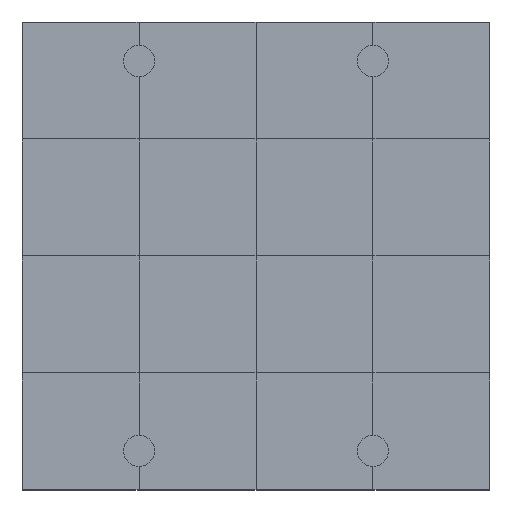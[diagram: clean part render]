
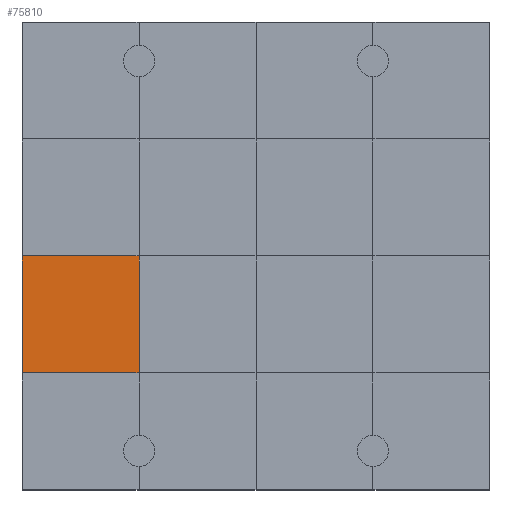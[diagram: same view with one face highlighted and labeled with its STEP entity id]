
A CAD part, top view. The second image highlights one B-rep face of the part: STEP entity #75810.
In plain terms, the highlighted planar face has unit normal (0, 0, 1).
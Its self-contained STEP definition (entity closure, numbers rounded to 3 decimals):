
#75360 = VERTEX_POINT('',#75361);
#75361 = CARTESIAN_POINT('',(0.,3.,1.2));
#75375 = PLANE('',#75376);
#75376 = AXIS2_PLACEMENT_3D('',#75377,#75378,#75379);
#75377 = CARTESIAN_POINT('',(0.,3.,0.));
#75378 = DIRECTION('',(1.,0.,-0.));
#75379 = DIRECTION('',(0.,0.,1.));
#75401 = PLANE('',#75402);
#75402 = AXIS2_PLACEMENT_3D('',#75403,#75404,#75405);
#75403 = CARTESIAN_POINT('',(0.,0.,1.2));
#75404 = DIRECTION('',(0.,0.,1.));
#75405 = DIRECTION('',(1.,0.,-0.));
#75552 = VERTEX_POINT('',#75553);
#75553 = CARTESIAN_POINT('',(3.,3.,1.2));
#75574 = EDGE_CURVE('',#75360,#75552,#75575,.T.);
#75575 = SURFACE_CURVE('',#75576,(#75580,#75587),.PCURVE_S1.);
#75576 = LINE('',#75577,#75578);
#75577 = CARTESIAN_POINT('',(0.,3.,1.2));
#75578 = VECTOR('',#75579,1.);
#75579 = DIRECTION('',(1.,0.,-0.));
#75580 = PCURVE('',#75401,#75581);
#75581 = DEFINITIONAL_REPRESENTATION('',(#75582),#75586);
#75582 = LINE('',#75583,#75584);
#75583 = CARTESIAN_POINT('',(0.,3.));
#75584 = VECTOR('',#75585,1.);
#75585 = DIRECTION('',(1.,0.));
#75586 = ( GEOMETRIC_REPRESENTATION_CONTEXT(2) 
PARAMETRIC_REPRESENTATION_CONTEXT() REPRESENTATION_CONTEXT('2D SPACE',''
  ) );
#75587 = PCURVE('',#75588,#75593);
#75588 = PLANE('',#75589);
#75589 = AXIS2_PLACEMENT_3D('',#75590,#75591,#75592);
#75590 = CARTESIAN_POINT('',(0.,3.,1.2));
#75591 = DIRECTION('',(0.,0.,1.));
#75592 = DIRECTION('',(1.,0.,-0.));
#75593 = DEFINITIONAL_REPRESENTATION('',(#75594),#75598);
#75594 = LINE('',#75595,#75596);
#75595 = CARTESIAN_POINT('',(0.,0.));
#75596 = VECTOR('',#75597,1.);
#75597 = DIRECTION('',(1.,0.));
#75598 = ( GEOMETRIC_REPRESENTATION_CONTEXT(2) 
PARAMETRIC_REPRESENTATION_CONTEXT() REPRESENTATION_CONTEXT('2D SPACE',''
  ) );
#75633 = VERTEX_POINT('',#75634);
#75634 = CARTESIAN_POINT('',(0.,6.,1.2));
#75660 = EDGE_CURVE('',#75360,#75633,#75661,.T.);
#75661 = SURFACE_CURVE('',#75662,(#75666,#75673),.PCURVE_S1.);
#75662 = LINE('',#75663,#75664);
#75663 = CARTESIAN_POINT('',(0.,3.,1.2));
#75664 = VECTOR('',#75665,1.);
#75665 = DIRECTION('',(-0.,1.,0.));
#75666 = PCURVE('',#75375,#75667);
#75667 = DEFINITIONAL_REPRESENTATION('',(#75668),#75672);
#75668 = LINE('',#75669,#75670);
#75669 = CARTESIAN_POINT('',(1.2,0.));
#75670 = VECTOR('',#75671,1.);
#75671 = DIRECTION('',(0.,-1.));
#75672 = ( GEOMETRIC_REPRESENTATION_CONTEXT(2) 
PARAMETRIC_REPRESENTATION_CONTEXT() REPRESENTATION_CONTEXT('2D SPACE',''
  ) );
#75673 = PCURVE('',#75588,#75674);
#75674 = DEFINITIONAL_REPRESENTATION('',(#75675),#75679);
#75675 = LINE('',#75676,#75677);
#75676 = CARTESIAN_POINT('',(0.,0.));
#75677 = VECTOR('',#75678,1.);
#75678 = DIRECTION('',(0.,1.));
#75679 = ( GEOMETRIC_REPRESENTATION_CONTEXT(2) 
PARAMETRIC_REPRESENTATION_CONTEXT() REPRESENTATION_CONTEXT('2D SPACE',''
  ) );
#75810 = ADVANCED_FACE('',(#75811),#75588,.T.);
#75811 = FACE_BOUND('',#75812,.T.);
#75812 = EDGE_LOOP('',(#75813,#75814,#75815,#75843));
#75813 = ORIENTED_EDGE('',*,*,#75660,.F.);
#75814 = ORIENTED_EDGE('',*,*,#75574,.T.);
#75815 = ORIENTED_EDGE('',*,*,#75816,.T.);
#75816 = EDGE_CURVE('',#75552,#75817,#75819,.T.);
#75817 = VERTEX_POINT('',#75818);
#75818 = CARTESIAN_POINT('',(3.,6.,1.2));
#75819 = SURFACE_CURVE('',#75820,(#75824,#75831),.PCURVE_S1.);
#75820 = LINE('',#75821,#75822);
#75821 = CARTESIAN_POINT('',(3.,3.,1.2));
#75822 = VECTOR('',#75823,1.);
#75823 = DIRECTION('',(-0.,1.,0.));
#75824 = PCURVE('',#75588,#75825);
#75825 = DEFINITIONAL_REPRESENTATION('',(#75826),#75830);
#75826 = LINE('',#75827,#75828);
#75827 = CARTESIAN_POINT('',(3.,0.));
#75828 = VECTOR('',#75829,1.);
#75829 = DIRECTION('',(0.,1.));
#75830 = ( GEOMETRIC_REPRESENTATION_CONTEXT(2) 
PARAMETRIC_REPRESENTATION_CONTEXT() REPRESENTATION_CONTEXT('2D SPACE',''
  ) );
#75831 = PCURVE('',#75832,#75837);
#75832 = PLANE('',#75833);
#75833 = AXIS2_PLACEMENT_3D('',#75834,#75835,#75836);
#75834 = CARTESIAN_POINT('',(3.,3.,1.2));
#75835 = DIRECTION('',(0.,0.,1.));
#75836 = DIRECTION('',(1.,0.,-0.));
#75837 = DEFINITIONAL_REPRESENTATION('',(#75838),#75842);
#75838 = LINE('',#75839,#75840);
#75839 = CARTESIAN_POINT('',(0.,0.));
#75840 = VECTOR('',#75841,1.);
#75841 = DIRECTION('',(0.,1.));
#75842 = ( GEOMETRIC_REPRESENTATION_CONTEXT(2) 
PARAMETRIC_REPRESENTATION_CONTEXT() REPRESENTATION_CONTEXT('2D SPACE',''
  ) );
#75843 = ORIENTED_EDGE('',*,*,#75844,.F.);
#75844 = EDGE_CURVE('',#75633,#75817,#75845,.T.);
#75845 = SURFACE_CURVE('',#75846,(#75850,#75857),.PCURVE_S1.);
#75846 = LINE('',#75847,#75848);
#75847 = CARTESIAN_POINT('',(0.,6.,1.2));
#75848 = VECTOR('',#75849,1.);
#75849 = DIRECTION('',(1.,0.,-0.));
#75850 = PCURVE('',#75588,#75851);
#75851 = DEFINITIONAL_REPRESENTATION('',(#75852),#75856);
#75852 = LINE('',#75853,#75854);
#75853 = CARTESIAN_POINT('',(0.,3.));
#75854 = VECTOR('',#75855,1.);
#75855 = DIRECTION('',(1.,0.));
#75856 = ( GEOMETRIC_REPRESENTATION_CONTEXT(2) 
PARAMETRIC_REPRESENTATION_CONTEXT() REPRESENTATION_CONTEXT('2D SPACE',''
  ) );
#75857 = PCURVE('',#75858,#75863);
#75858 = PLANE('',#75859);
#75859 = AXIS2_PLACEMENT_3D('',#75860,#75861,#75862);
#75860 = CARTESIAN_POINT('',(0.,6.,1.2));
#75861 = DIRECTION('',(0.,0.,1.));
#75862 = DIRECTION('',(1.,0.,-0.));
#75863 = DEFINITIONAL_REPRESENTATION('',(#75864),#75868);
#75864 = LINE('',#75865,#75866);
#75865 = CARTESIAN_POINT('',(0.,0.));
#75866 = VECTOR('',#75867,1.);
#75867 = DIRECTION('',(1.,0.));
#75868 = ( GEOMETRIC_REPRESENTATION_CONTEXT(2) 
PARAMETRIC_REPRESENTATION_CONTEXT() REPRESENTATION_CONTEXT('2D SPACE',''
  ) );
